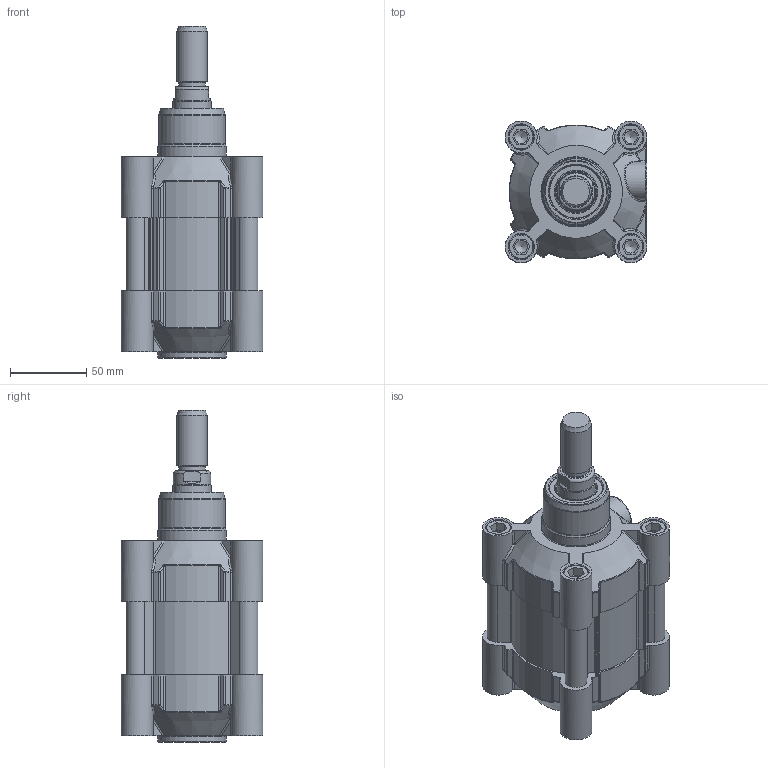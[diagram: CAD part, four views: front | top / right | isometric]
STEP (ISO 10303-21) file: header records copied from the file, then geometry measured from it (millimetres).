
FILE_DESCRIPTION(/* description */ ('CILIONDRO D.E. MAGNETICO AMMORTIZZATO ISO 15552'),/* implementation_level */ '2;1');
FILE_NAME(/* name */ 'T:\Archivio Inventor\- 00 NUOVI STP PER SITO CON STELO CHE SI MUOVE\SERIE H - U\SERIE HDM\HDM080 - TUBO NUOVO\HDM080.000.GS.M.stp',/* time_stamp */ '2018-08-01T09:34:12+02:00',/* author */ ('carlo.corazza'),/* organization */ (''),/* preprocessor_version */ 'ST-DEVELOPER v16.5',/* originating_system */ 'Autodesk Inventor 2017',/* authorisation */ '');
FILE_SCHEMA (('AUTOMOTIVE_DESIGN { 1 0 10303 214 3 1 1 }'));
Length unit declared in the file: millimetre
Products named in the file (5): HDM080.000.GS.M; STELO-000; TA; TP; CORPO-000
Assembly tree (4 placements, depth 2):
  HDM080.000.GS.M
    STELO-000
    TA
    TP
    CORPO-000
Bounding box: 93 x 93 x 218 mm (x, y, z)
Volume: 545351.4 mm3; surface area: 207300.5 mm2
Topology: 4 solids, 29 shells, 1358 faces, 3118 edges, 1897 vertices
Faces by surface type: plane 386, bspline 318, cylinder 289, torus 127, cone 124, sphere 114
Full cylindrical faces by diameter (mm): 4.5 x2, 5.9 x2, 6.5 x2, 7.25 x2, 8.376 x8, 9.4 x4, 10 x8, 10.3 x8, 11.8 x4, 11.9 x2, 12 x4, 13 x2, 14.95 x2, 16 x9, 16.3 x8, 17.5 x1, 20 x1, 24.5 x1, 25 x1, 25.8 x1, 25.962 x1, 30 x1, 31.5 x2, 35 x3, 43.5 x1, 45 x2, 80 x1
Entity records: 44027 total; most frequent: CARTESIAN_POINT 14479, ORIENTED_EDGE 5688, DIRECTION 5406, EDGE_CURVE 2844, AXIS2_PLACEMENT_3D 2207, VERTEX_POINT 1848, EDGE_LOOP 1698, STYLED_ITEM 1362
